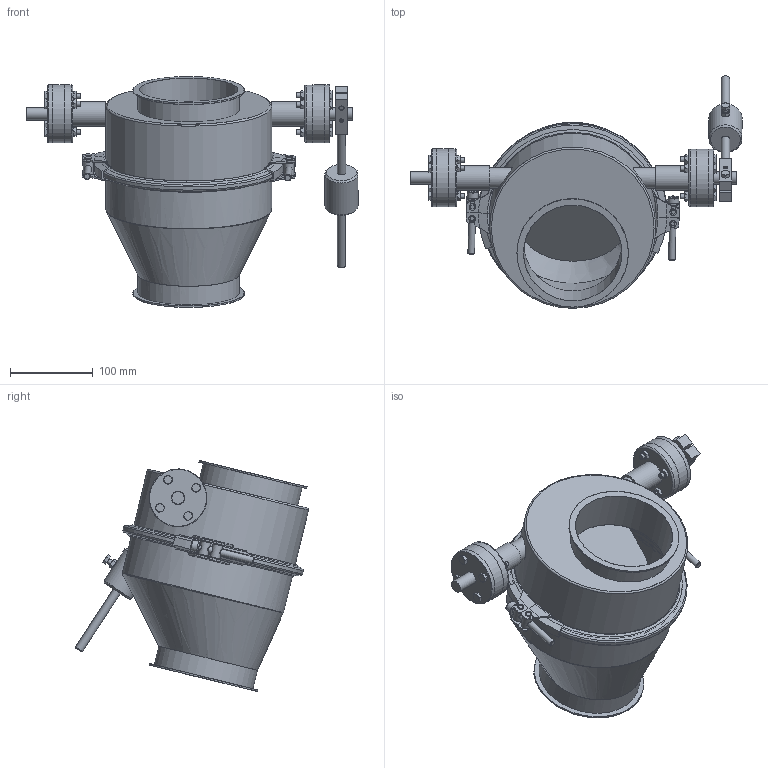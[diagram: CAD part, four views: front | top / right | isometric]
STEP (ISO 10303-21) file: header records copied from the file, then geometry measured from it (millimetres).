
FILE_DESCRIPTION((''),'2;1');
FILE_NAME('U:\Wolfgang\Marcel-3D\fertig\Kapitel 8\1221175.stp','2011-05-03T15:05:04',('TK1'),(''),'Autodesk Inventor 2010','Autodesk Inventor 2010','');
FILE_SCHEMA(('AUTOMOTIVE_DESIGN { 1 0 10303 214 1 1 1 1 }'));
Length unit declared in the file: millimetre
Products named in the file (20): 1221175; Hebel D15; WelleDN120; Wellenende D15; Buchse D15 70-50; lagerdeckel D15; PendelkugellagerD15; DIN EN ISO 4018 M6x40; DIN EN ISO 4018 M6x30; DIN 555 - ersetzt durch DIN EN 24034 M6; DIN 914 M5 x 6; DIN EN ISO 4018 M6x20; 2012056; 2022055-1; Verschluss b=224; Verschlussrolle; VerschlussrolleGewinde; ISO 4762 M8 x 70; ISO 7089 8 - 140 HV; 1211175-1
Assembly tree (44 placements, depth 3):
  1221175
    Hebel D15
    WelleDN120
    Wellenende D15  x2
      Buchse D15 70-50
      lagerdeckel D15
      PendelkugellagerD15
    DIN EN ISO 4018 M6x40  x8
    DIN EN ISO 4018 M6x30
    DIN 555 - ersetzt durch DIN EN 24034 M6  x9
    DIN 914 M5 x 6  x2
    DIN EN ISO 4018 M6x20
    2012056
      2022055-1  x2
      Verschluss b=224  x4
      Verschlussrolle  x2
      VerschlussrolleGewinde  x2
      ISO 4762 M8 x 70  x2
      ISO 7089 8 - 140 HV  x2
    1211175-1
Bounding box: 402 x 282.21 x 279.74 mm (x, y, z)
Volume: 550871.3 mm3; surface area: 793517 mm2
Topology: 44 solids, 44 shells, 897 faces, 2128 edges, 1380 vertices
Faces by surface type: plane 347, cylinder 206, cone 184, bspline 137, torus 23
Full cylindrical faces by diameter (mm): 5 x10, 6 x12, 8 x10, 8.4 x2, 9 x1, 10 x2, 12 x4, 13 x2, 15 x5, 15.2 x4, 15.5 x2, 16 x4, 24 x2, 24.8 x4, 25 x4, 30 x2, 35 x2, 40 x1, 70 x6, 119 x2, 119.2 x1, 122.8 x3, 123 x3, 134.8 x2, 135 x2, 197 x1, 197.2 x1, 200.8 x2, 201 x2, 212.8 x1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
Entity records: 12898 total; most frequent: CARTESIAN_POINT 5039, DIRECTION 1556, ORIENTED_EDGE 1292, AXIS2_PLACEMENT_3D 671, EDGE_CURVE 646, EDGE_LOOP 566, VERTEX_POINT 488, FACE_OUTER_BOUND 355
